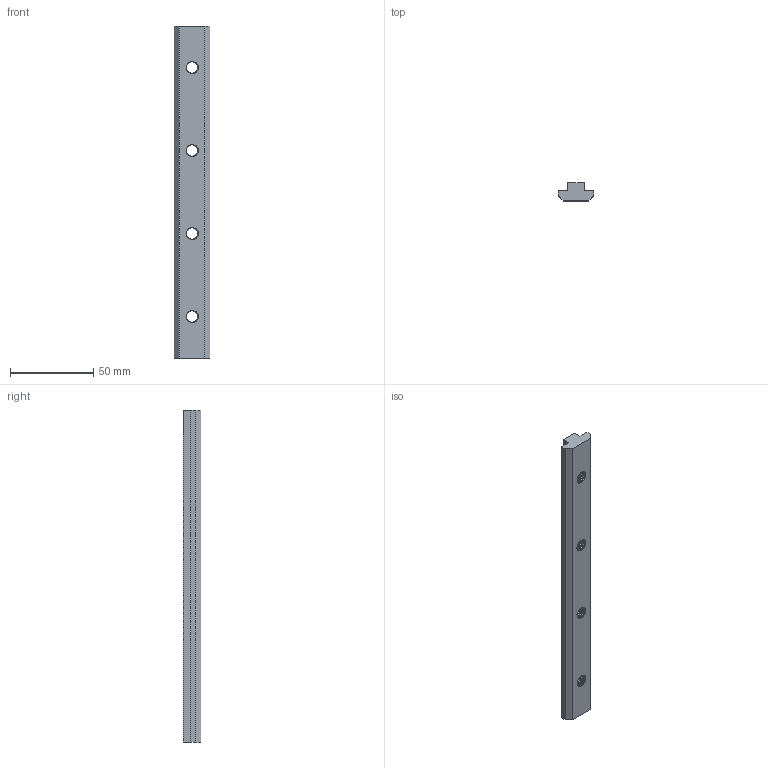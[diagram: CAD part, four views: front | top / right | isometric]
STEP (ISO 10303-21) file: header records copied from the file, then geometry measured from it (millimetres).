
FILE_DESCRIPTION (( 'STEP AP203' ), '1' );
FILE_NAME ('86-CE-ISC4545-10.STEP', '2015-07-09T08:31:24', ( '' ), ( '' ), 'SwSTEP 2.0', 'SolidWorks 2013', '' );
FILE_SCHEMA (( 'CONFIG_CONTROL_DESIGN' ));
Length unit declared in the file: millimetre
Products named in the file (1): 86-CE-ISC4545-10
Bounding box: 21.5 x 10.5 x 200 mm (x, y, z)
Volume: 31076.9 mm3; surface area: 13474 mm2
Topology: 1 solids, 1 shells, 112 faces, 330 edges, 220 vertices
Faces by surface type: cylinder 92, plane 12, bspline 8
Entity records: 9039 total; most frequent: CARTESIAN_POINT 6543, ORIENTED_EDGE 660, DIRECTION 360, EDGE_CURVE 330, VERTEX_POINT 220, AXIS2_PLACEMENT_3D 121, EDGE_LOOP 120, LINE 118
